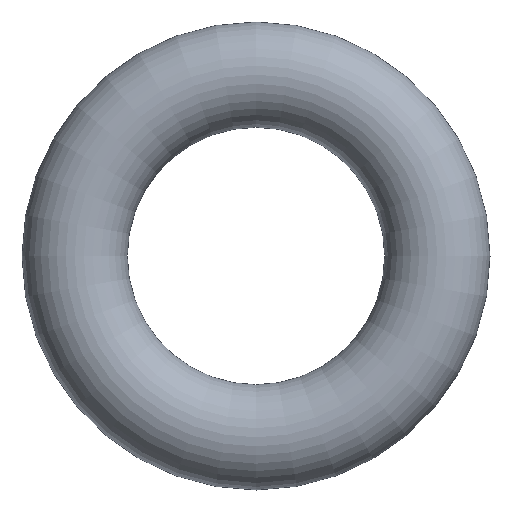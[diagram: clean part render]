
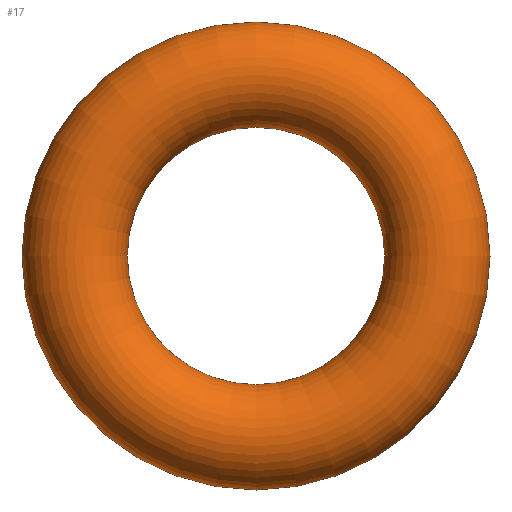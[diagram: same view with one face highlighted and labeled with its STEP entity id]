
A CAD part, front view. The second image highlights one B-rep face of the part: STEP entity #17.
In plain terms, the highlighted toroidal (fillet/blend) face has major radius 33.48 mm and minor radius 9.72 mm.
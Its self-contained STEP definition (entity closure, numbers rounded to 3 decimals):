
#17 = ADVANCED_FACE('',(#18),#31,.T.);
#18 = FACE_BOUND('',#19,.T.);
#19 = EDGE_LOOP('',(#20,#49,#71,#72));
#20 = ORIENTED_EDGE('',*,*,#21,.T.);
#21 = EDGE_CURVE('',#22,#22,#24,.T.);
#22 = VERTEX_POINT('',#23);
#23 = CARTESIAN_POINT('',(43.2,0.,0.));
#24 = SEAM_CURVE('',#25,(#30,#42),.PCURVE_S1.);
#25 = CIRCLE('',#26,43.2);
#26 = AXIS2_PLACEMENT_3D('',#27,#28,#29);
#27 = CARTESIAN_POINT('',(0.,0.,0.));
#28 = DIRECTION('',(-0.,1.,0.));
#29 = DIRECTION('',(1.,0.,0.));
#30 = PCURVE('',#31,#36);
#31 = TOROIDAL_SURFACE('',#32,33.48,9.72);
#32 = AXIS2_PLACEMENT_3D('',#33,#34,#35);
#33 = CARTESIAN_POINT('',(0.,0.,0.));
#34 = DIRECTION('',(0.,1.,0.));
#35 = DIRECTION('',(1.,0.,0.));
#36 = DEFINITIONAL_REPRESENTATION('',(#37),#41);
#37 = LINE('',#38,#39);
#38 = CARTESIAN_POINT('',(0.,0.));
#39 = VECTOR('',#40,1.);
#40 = DIRECTION('',(1.,0.));
#41 = ( GEOMETRIC_REPRESENTATION_CONTEXT(2) 
PARAMETRIC_REPRESENTATION_CONTEXT() REPRESENTATION_CONTEXT('2D SPACE',''
  ) );
#42 = PCURVE('',#31,#43);
#43 = DEFINITIONAL_REPRESENTATION('',(#44),#48);
#44 = LINE('',#45,#46);
#45 = CARTESIAN_POINT('',(0.,6.283));
#46 = VECTOR('',#47,1.);
#47 = DIRECTION('',(1.,0.));
#48 = ( GEOMETRIC_REPRESENTATION_CONTEXT(2) 
PARAMETRIC_REPRESENTATION_CONTEXT() REPRESENTATION_CONTEXT('2D SPACE',''
  ) );
#49 = ORIENTED_EDGE('',*,*,#50,.T.);
#50 = EDGE_CURVE('',#22,#22,#51,.T.);
#51 = SEAM_CURVE('',#52,(#57,#64),.PCURVE_S1.);
#52 = CIRCLE('',#53,9.72);
#53 = AXIS2_PLACEMENT_3D('',#54,#55,#56);
#54 = CARTESIAN_POINT('',(33.48,0.,0.));
#55 = DIRECTION('',(0.,0.,1.));
#56 = DIRECTION('',(1.,0.,0.));
#57 = PCURVE('',#31,#58);
#58 = DEFINITIONAL_REPRESENTATION('',(#59),#63);
#59 = LINE('',#60,#61);
#60 = CARTESIAN_POINT('',(0.,0.));
#61 = VECTOR('',#62,1.);
#62 = DIRECTION('',(0.,1.));
#63 = ( GEOMETRIC_REPRESENTATION_CONTEXT(2) 
PARAMETRIC_REPRESENTATION_CONTEXT() REPRESENTATION_CONTEXT('2D SPACE',''
  ) );
#64 = PCURVE('',#31,#65);
#65 = DEFINITIONAL_REPRESENTATION('',(#66),#70);
#66 = LINE('',#67,#68);
#67 = CARTESIAN_POINT('',(6.283,0.));
#68 = VECTOR('',#69,1.);
#69 = DIRECTION('',(0.,1.));
#70 = ( GEOMETRIC_REPRESENTATION_CONTEXT(2) 
PARAMETRIC_REPRESENTATION_CONTEXT() REPRESENTATION_CONTEXT('2D SPACE',''
  ) );
#71 = ORIENTED_EDGE('',*,*,#21,.F.);
#72 = ORIENTED_EDGE('',*,*,#50,.F.);
